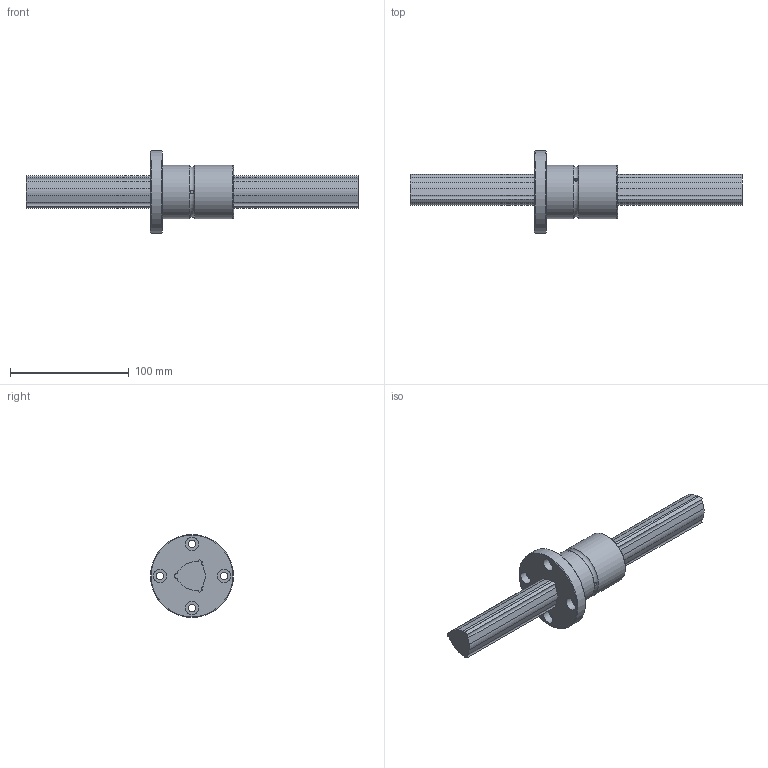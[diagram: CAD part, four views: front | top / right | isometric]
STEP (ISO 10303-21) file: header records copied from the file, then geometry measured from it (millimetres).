
FILE_DESCRIPTION(/* description */ ('STEP AP203'),/* implementation_level */ '2;1');
FILE_NAME(/* name */ 'LBF30+280L(2801050)',/* time_stamp */ '2024-05-23T12:04:57+02:00',/* author */ ('License CC BY-ND 4.0'),/* organization */ ('CADENAS'),/* preprocessor_version */ 'ST-DEVELOPER v19.3',/* originating_system */ 'PARTsolutions',/* authorisation */ ' ');
FILE_SCHEMA (('CONFIG_CONTROL_DESIGN'));
Length unit declared in the file: millimetre
Products named in the file (3): LBF30+280L(2801050); LBF301280 Spline Shaft; LBF30 Nut
Assembly tree (2 placements, depth 2):
  LBF30+280L(2801050)
    LBF301280 Spline Shaft
    LBF30 Nut
Bounding box: 280 x 70 x 70 mm (x, y, z)
Volume: 228009.9 mm3; surface area: 49331.1 mm2
Topology: 2 solids, 2 shells, 66 faces, 164 edges, 110 vertices
Faces by surface type: cylinder 38, plane 24, torus 2, cone 2
Full cylindrical faces by diameter (mm): 3 x3, 6.6 x4, 11 x4, 45 x2, 70 x1
Entity records: 1978 total; most frequent: CARTESIAN_POINT 353, DIRECTION 350, ORIENTED_EDGE 278, AXIS2_PLACEMENT_3D 145, EDGE_CURVE 139, VERTEX_POINT 103, EDGE_LOOP 102, FACE_BOUND 102
